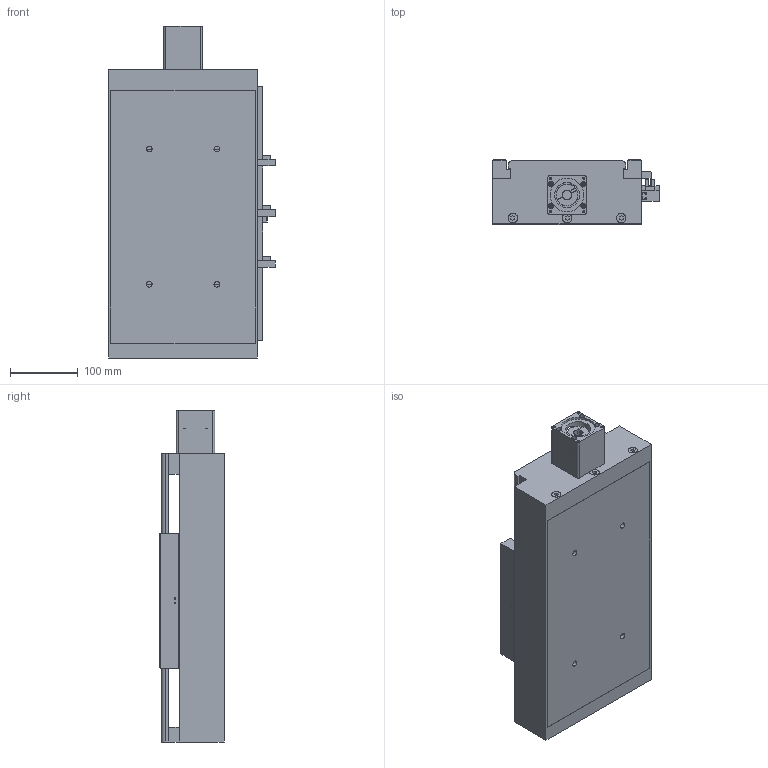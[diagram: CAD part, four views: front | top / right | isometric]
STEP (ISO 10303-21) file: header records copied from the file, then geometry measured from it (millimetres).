
FILE_DESCRIPTION((''),'2;1');
FILE_NAME('E:\libraries\UIA actuator library 2016\standard actuator\UIA220R20NDC\UIA220R20NDC ball screw 25\UIA220R20NDC-_ _ _-R25_ _ stp file, 01May16\UIA220R20NDC-150-R25_ _-M60-P13-C10-S.stp','2016-04-29T17:17:53',('h029'),(''),'Autodesk Inventor 11','Autodesk Inventor 11','');
FILE_SCHEMA(('AUTOMOTIVE_DESIGN { 1 0 10303 214 1 1 1 1 }'));
Length unit declared in the file: millimetre
Products named in the file (10): UIA220R20NDC-150-R25_ _; UIA220R20NDC-body; 41-100 0010 CARRIAGE; sensor rail; Sensor Switch; motor mount M60; SOH-32C; SOH-32C-3; SOH-32C-1; SOH-32C-2
Assembly tree (9 placements, depth 3):
  UIA220R20NDC-150-R25_ _
    UIA220R20NDC-body
    41-100 0010 CARRIAGE
    sensor rail
    Sensor Switch
    motor mount M60
    SOH-32C
      SOH-32C-3
      SOH-32C-1
      SOH-32C-2
Bounding box: 246.5 x 96 x 491 mm (x, y, z)
Volume: 3711750.2 mm3; surface area: 757675 mm2
Topology: 8 solids, 8 shells, 499 faces, 1341 edges, 881 vertices
Faces by surface type: plane 342, bspline 109, cylinder 46, cone 2
Full cylindrical faces by diameter (mm): 3.242 x2, 4.5 x2, 7 x4, 7.5 x2, 13.8 x3, 14 x6, 17 x1, 32 x3, 37 x1, 50.3 x1, 50.5 x1
Entity records: 16306 total; most frequent: CARTESIAN_POINT 4537, ORIENTED_EDGE 2296, DIRECTION 2245, EDGE_CURVE 1148, VECTOR 849, LINE 849, VERTEX_POINT 807, EDGE_LOOP 709
